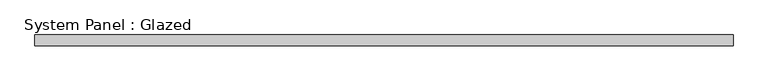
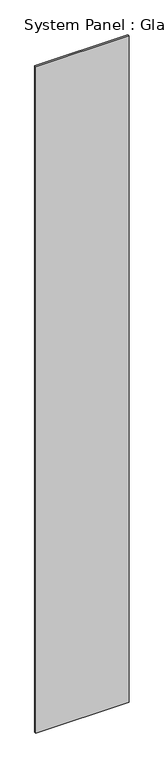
"""IFC4 building model written with IfcOpenShell, lengths in millimetres: plate geometry, System Panel : Glazed."""

from ifc_helpers import new_model, si_unit, origin, origin_with_axes, place, context, project, spatial, polyline, outline, extrude, source, transform, mapped, element, save


def system_panel_glazed_01db162c(model_context):
    return source(origin(), model_context, "Body", "SweptSolid", [
        extrude(outline(polyline([(794.9, -12.5), (-794.9, -12.5), (-794.9, 12.5), (794.9, 12.5), (794.9, -12.5)])), origin_with_axes(), (0.0, 0.0, 1.0), 12000.0),
    ])


if __name__ == "__main__":
    model = new_model("IFC4")
    model_context = context("Model", 3, world=origin())
    ifc_project = project(units=[si_unit("LENGTHUNIT", "METRE", prefix="MILLI")], contexts=[model_context])
    site = spatial("IfcSite", under=ifc_project)
    building = spatial("IfcBuilding", under=site)
    placement = place(None, origin())
    system_panel_glazed_shape = system_panel_glazed_01db162c(model_context)
    element("IfcPlate", 1, ObjectType="System Panel : Glazed", at=placement, inside=building, context=model_context, shape_type="MappedRepresentation", body=[
        mapped(system_panel_glazed_shape, transform((0.0, 0.0, 0.0), x_axis=(1.0, 0.0, 0.0), y_axis=(0.0, 1.0, 0.0), z_axis=(0.0, 0.0, 1.0))),
    ])
    save(model, "model.ifc")
